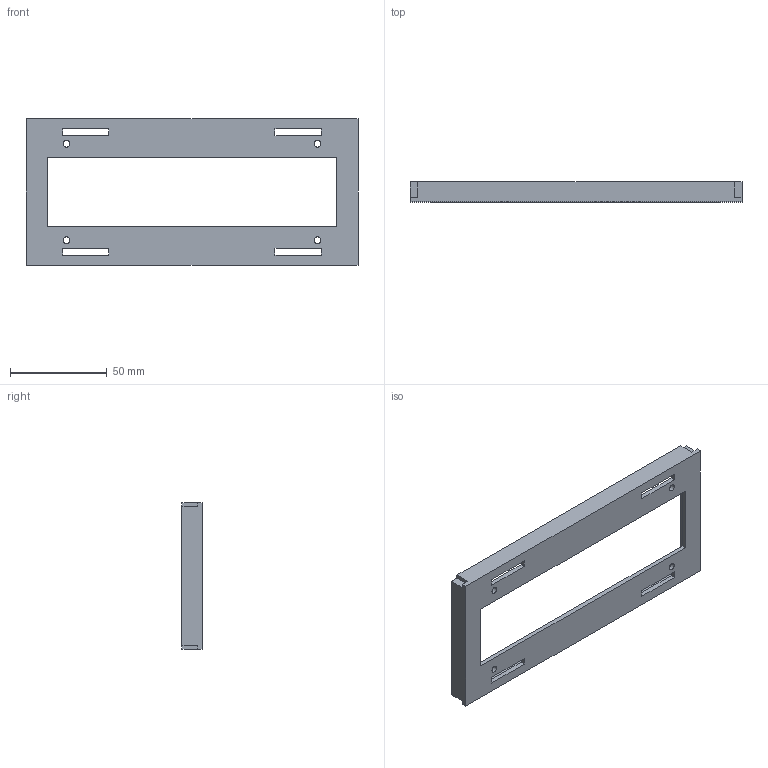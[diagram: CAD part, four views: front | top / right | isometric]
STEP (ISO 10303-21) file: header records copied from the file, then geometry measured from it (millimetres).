
FILE_DESCRIPTION(('Open CASCADE Model'),'2;1');
FILE_NAME('Open CASCADE Shape Model','2026-08-16T15:13:29',('Author'),( 'Open CASCADE'),'Open CASCADE STEP processor 7.9','Open CASCADE 7.9' ,'Unknown');
FILE_SCHEMA(('AUTOMOTIVE_DESIGN { 1 0 10303 214 1 1 1 1 }'));
Length unit declared in the file: millimetre
Products named in the file (1): Open CASCADE STEP translator 7.9 11
Bounding box: 172 x 10.4 x 76 mm (x, y, z)
Volume: 32595 mm3; surface area: 24974.5 mm2
Topology: 1 solids, 1 shells, 47 faces, 132 edges, 88 vertices
Faces by surface type: plane 43, cylinder 4
Full cylindrical faces by diameter (mm): 3.5 x4
Entity records: 3152 total; most frequent: CARTESIAN_POINT 636, DIRECTION 396, LINE 276, VECTOR 276, ORIENTED_EDGE 264, PCURVE 264, DEFINITIONAL_REPRESENTATION 264, EDGE_CURVE 132
